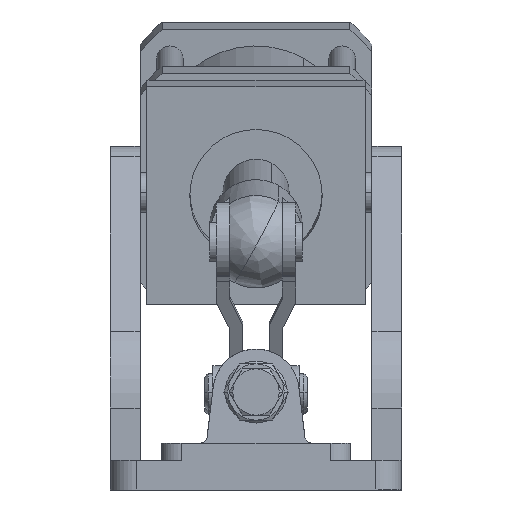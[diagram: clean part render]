
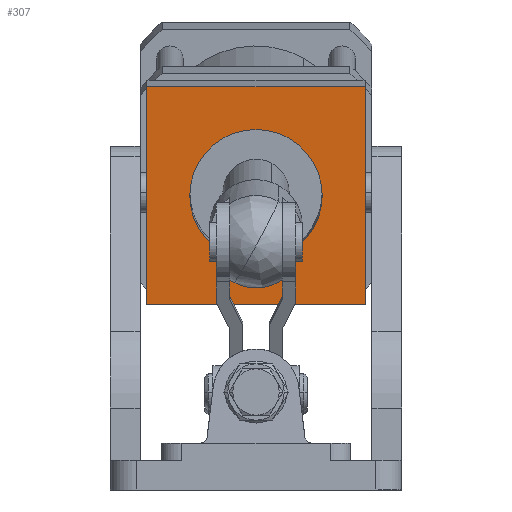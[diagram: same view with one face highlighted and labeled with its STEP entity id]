
A CAD part, left-side view. The second image highlights one B-rep face of the part: STEP entity #307.
In plain terms, the highlighted planar face has unit normal (-0.997, 0, -0.082).
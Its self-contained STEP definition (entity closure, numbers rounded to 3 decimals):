
#63=CARTESIAN_POINT('Vertex',(395.436,-33.,47.091)) ;
#91=CARTESIAN_POINT('Vertex',(390.027,-33.,112.869)) ;
#94=CARTESIAN_POINT('Line Origine',(392.732,-33.,79.98)) ;
#137=CARTESIAN_POINT('Vertex',(395.436,33.,47.091)) ;
#159=CARTESIAN_POINT('Line Origine',(395.436,0.,47.091)) ;
#256=CARTESIAN_POINT('Vertex',(390.027,33.,112.869)) ;
#259=CARTESIAN_POINT('Line Origine',(390.027,0.,112.869)) ;
#273=CARTESIAN_POINT('Axis2P3D Location',(396.626,0.,32.614)) ;
#278=CARTESIAN_POINT('Line Origine',(392.732,33.,79.98)) ;
#289=CARTESIAN_POINT('Axis2P3D Location',(392.732,0.,79.98)) ;
#293=CARTESIAN_POINT('Vertex',(392.732,20.,79.98)) ;
#295=CARTESIAN_POINT('Vertex',(392.732,-20.,79.98)) ;
#298=CARTESIAN_POINT('Axis2P3D Location',(392.732,0.,79.98)) ;
#95=DIRECTION('Vector Direction',(-0.082,0.,0.997)) ;
#160=DIRECTION('Vector Direction',(0.,1.,0.)) ;
#260=DIRECTION('Vector Direction',(0.,-1.,0.)) ;
#274=DIRECTION('Axis2P3D Direction',(-0.997,0.,-0.082)) ;
#275=DIRECTION('Axis2P3D XDirection',(0.,-1.,0.)) ;
#279=DIRECTION('Vector Direction',(0.082,0.,-0.997)) ;
#290=DIRECTION('Axis2P3D Direction',(-0.997,0.,-0.082)) ;
#299=DIRECTION('Axis2P3D Direction',(-0.997,0.,-0.082)) ;
#276=AXIS2_PLACEMENT_3D('Plane Axis2P3D',#273,#274,#275) ;
#291=AXIS2_PLACEMENT_3D('Circle Axis2P3D',#289,#290,$) ;
#300=AXIS2_PLACEMENT_3D('Circle Axis2P3D',#298,#299,$) ;
#284=ORIENTED_EDGE('',*,*,#282,.T.) ;
#285=ORIENTED_EDGE('',*,*,#163,.T.) ;
#286=ORIENTED_EDGE('',*,*,#98,.T.) ;
#287=ORIENTED_EDGE('',*,*,#263,.T.) ;
#304=ORIENTED_EDGE('',*,*,#297,.F.) ;
#305=ORIENTED_EDGE('',*,*,#302,.F.) ;
#306=FACE_BOUND('',#303,.T.) ;
#96=VECTOR('Line Direction',#95,1.) ;
#161=VECTOR('Line Direction',#160,1.) ;
#261=VECTOR('Line Direction',#260,1.) ;
#280=VECTOR('Line Direction',#279,1.) ;
#307=ADVANCED_FACE('',(#288,#306),#277,.T.) ;
#292=CIRCLE('generated circle',#291,20.) ;
#301=CIRCLE('generated circle',#300,20.) ;
#98=EDGE_CURVE('',#64,#92,#97,.T.) ;
#163=EDGE_CURVE('',#138,#64,#162,.F.) ;
#263=EDGE_CURVE('',#92,#257,#262,.F.) ;
#282=EDGE_CURVE('',#257,#138,#281,.T.) ;
#297=EDGE_CURVE('',#294,#296,#292,.T.) ;
#302=EDGE_CURVE('',#296,#294,#301,.T.) ;
#283=EDGE_LOOP('',(#284,#285,#286,#287)) ;
#303=EDGE_LOOP('',(#304,#305)) ;
#288=FACE_OUTER_BOUND('',#283,.T.) ;
#97=LINE('Line',#94,#96) ;
#162=LINE('Line',#159,#161) ;
#262=LINE('Line',#259,#261) ;
#281=LINE('Line',#278,#280) ;
#277=PLANE('Plane',#276) ;
#64=VERTEX_POINT('',#63) ;
#92=VERTEX_POINT('',#91) ;
#138=VERTEX_POINT('',#137) ;
#257=VERTEX_POINT('',#256) ;
#294=VERTEX_POINT('',#293) ;
#296=VERTEX_POINT('',#295) ;
